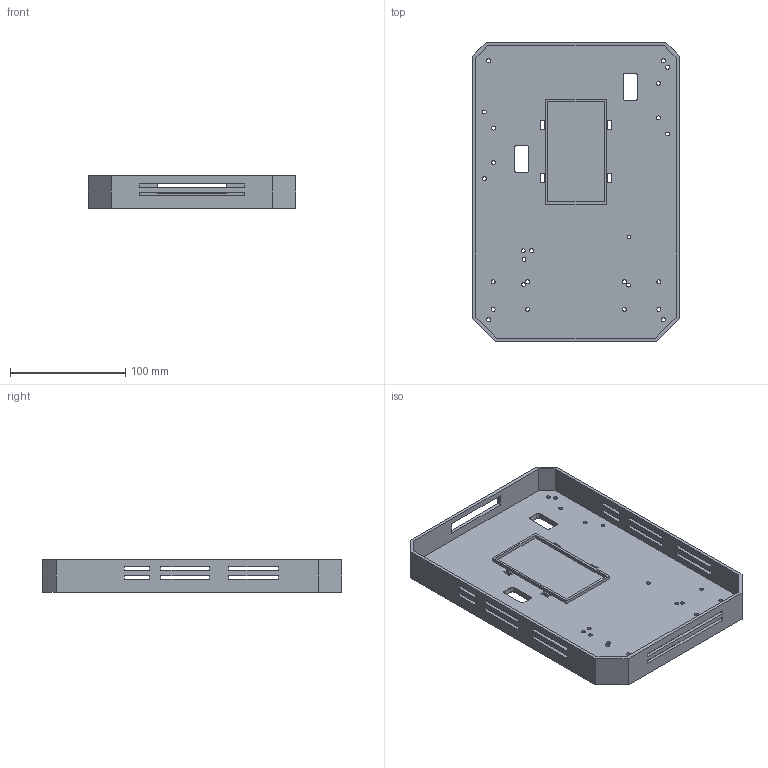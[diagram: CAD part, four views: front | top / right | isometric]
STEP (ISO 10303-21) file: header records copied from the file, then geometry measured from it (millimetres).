
FILE_DESCRIPTION(('FreeCAD Model'),'2;1');
FILE_NAME('Open CASCADE Shape Model','2026-10-15T23:35:51',('FreeCAD'),( 'FreeCAD'),'Open CASCADE STEP processor 7.8','FreeCAD','Unknown');
FILE_SCHEMA(('AUTOMOTIVE_DESIGN { 1 0 10303 214 1 1 1 1 }'));
Length unit declared in the file: millimetre
Products named in the file (1): Open CASCADE STEP translator 7.8 4
Bounding box: 180 x 260 x 28 mm (x, y, z)
Volume: 278256.5 mm3; surface area: 136717.8 mm2
Topology: 1 solids, 1 shells, 147 faces, 426 edges, 284 vertices
Faces by surface type: plane 113, cylinder 34
Full cylindrical faces by diameter (mm): 3.4 x26
Entity records: 5006 total; most frequent: CARTESIAN_POINT 858, ORIENTED_EDGE 852, DIRECTION 790, EDGE_CURVE 426, LINE 358, VECTOR 358, VERTEX_POINT 284, FACE_BOUND 244
